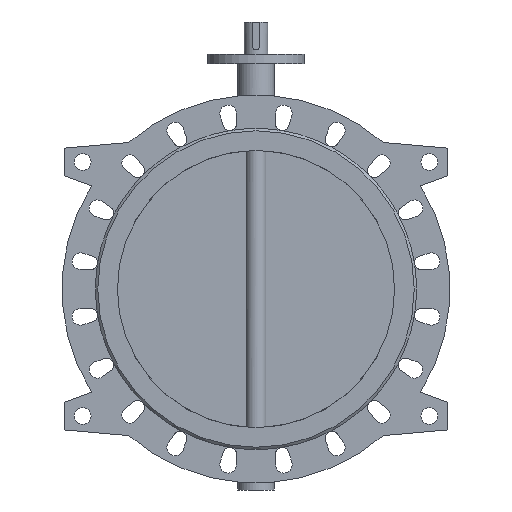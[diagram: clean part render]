
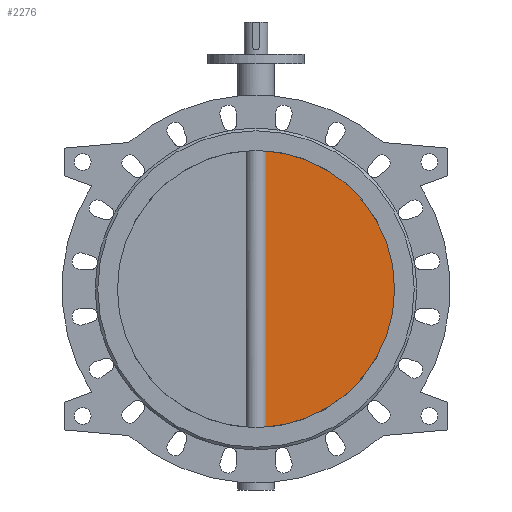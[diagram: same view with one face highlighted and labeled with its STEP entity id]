
A CAD part, front view. The second image highlights one B-rep face of the part: STEP entity #2276.
In plain terms, the highlighted planar face has unit normal (0, -1, 0).
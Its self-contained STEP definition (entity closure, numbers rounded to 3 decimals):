
#2276=ADVANCED_FACE('',(#4352),#4354,.T.);
#4352=FACE_BOUND('',#4353,.T.);
#4353=EDGE_LOOP('',(#5937,#5938));
#4354=PLANE('',#4355);
#4355=AXIS2_PLACEMENT_3D('',#4356,#4357,#4358);
#4356=CARTESIAN_POINT('',(0.,-7.5,0.));
#4357=DIRECTION('',(0.,-1.,0.));
#4358=DIRECTION('',(1.,0.,0.));
#5937=ORIENTED_EDGE('',*,*,#6730,.T.);
#5938=ORIENTED_EDGE('',*,*,#6736,.T.);
#6730=EDGE_CURVE('',#8015,#8016,#8017,.F.);
#6736=EDGE_CURVE('',#8016,#8015,#8027,.T.);
#8015=VERTEX_POINT('',#11672);
#8016=VERTEX_POINT('',#11673);
#8017=CIRCLE('',#11674,300.);
#8027=LINE('',#11918,#11919);
#11672=CARTESIAN_POINT('',(21.213,-7.5,-299.249));
#11673=CARTESIAN_POINT('',(21.213,-7.5,299.249));
#11674=AXIS2_PLACEMENT_3D('',#11675,#11676,#11677);
#11675=CARTESIAN_POINT('',(0.,-7.5,0.));
#11676=DIRECTION('',(0.,1.,0.));
#11677=DIRECTION('',(0.071,0.,0.997));
#11918=CARTESIAN_POINT('',(21.213,-7.5,299.249));
#11919=VECTOR('',#11920,1.);
#11920=DIRECTION('',(0.,0.,-1.));
